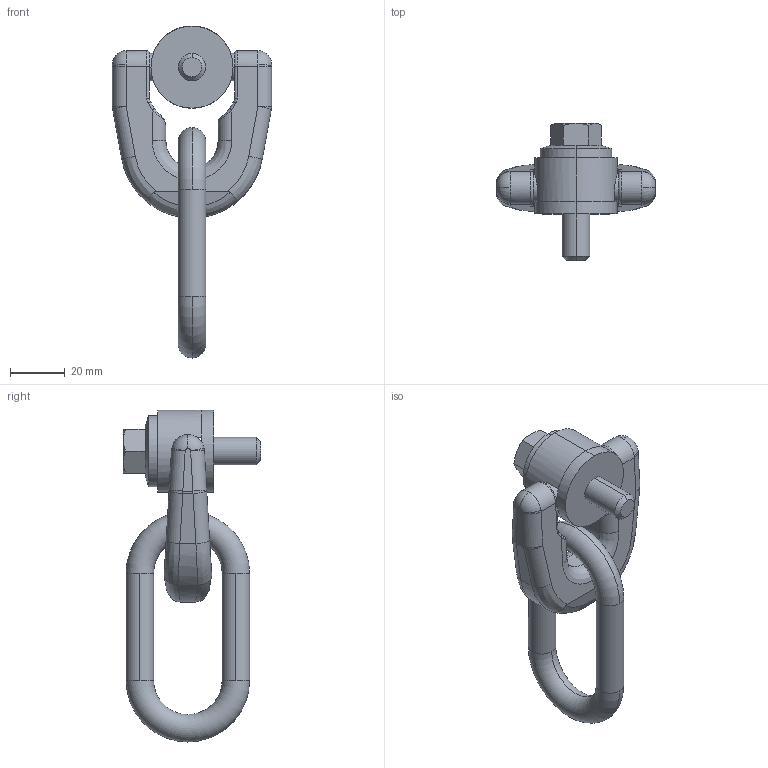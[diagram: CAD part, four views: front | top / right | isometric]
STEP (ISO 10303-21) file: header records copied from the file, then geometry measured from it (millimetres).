
FILE_DESCRIPTION (( 'STEP AP203' ), '1' );
FILE_NAME ('63150.W0010.step', '2013-12-13T11:50:43', ( 'User' ), ( '' ), 'SwSTEP 2.0', 'SolidWorks 2009', '' );
FILE_SCHEMA (( 'CONFIG_CONTROL_DESIGN' ));
Length unit declared in the file: millimetre
Products named in the file (4): 63150.W0010; Part1_63150.W0010; Part2A; Part3_63150.W0010
Assembly tree (3 placements, depth 2):
  63150.W0010
    Part2A
    Part3_63150.W0010
    Part1_63150.W0010
Bounding box: 58 x 50 x 121 mm (x, y, z)
Volume: 60258 mm3; surface area: 18962.3 mm2
Topology: 3 solids, 3 shells, 133 faces, 319 edges, 190 vertices
Faces by surface type: cylinder 41, bspline 33, plane 33, torus 12, cone 10, sphere 4
Entity records: 5611 total; most frequent: CARTESIAN_POINT 2343, ORIENTED_EDGE 634, DIRECTION 582, EDGE_CURVE 317, AXIS2_PLACEMENT_3D 237, VERTEX_POINT 190, EDGE_LOOP 137, ADVANCED_FACE 133
